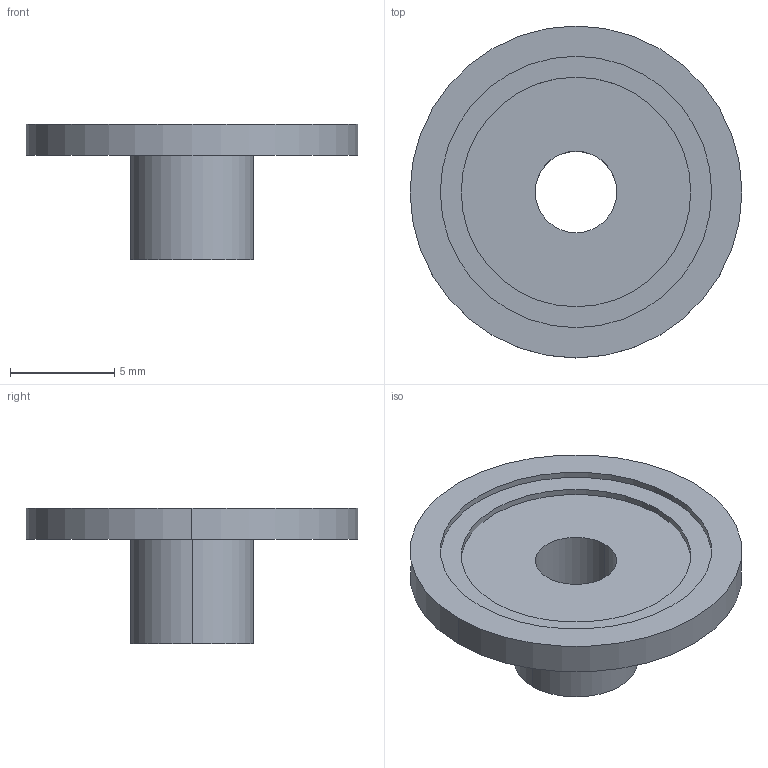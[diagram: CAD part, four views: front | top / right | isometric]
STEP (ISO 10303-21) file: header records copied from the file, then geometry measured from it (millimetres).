
FILE_DESCRIPTION (( 'STEP AP214' ), '1' );
FILE_NAME ('疏え炵苀_疏え釱_V1.STEP', '2026-06-22T02:30:30', ( '' ), ( '' ), 'SwSTEP 2.0', 'SolidWorks 2022', '' );
FILE_SCHEMA (( 'AUTOMOTIVE_DESIGN' ));
Length unit declared in the file: millimetre
Products named in the file (1): 波片系统_波片座_V1
Bounding box: 15.9 x 15.9 x 6.5 mm (x, y, z)
Volume: 295.7 mm3; surface area: 635.7 mm2
Topology: 1 solids, 1 shells, 15 faces, 30 edges, 20 vertices
Faces by surface type: cylinder 10, plane 5
Entity records: 442 total; most frequent: DIRECTION 82, CARTESIAN_POINT 66, ORIENTED_EDGE 60, AXIS2_PLACEMENT_3D 36, EDGE_CURVE 30, VERTEX_POINT 20, EDGE_LOOP 20, CIRCLE 20
